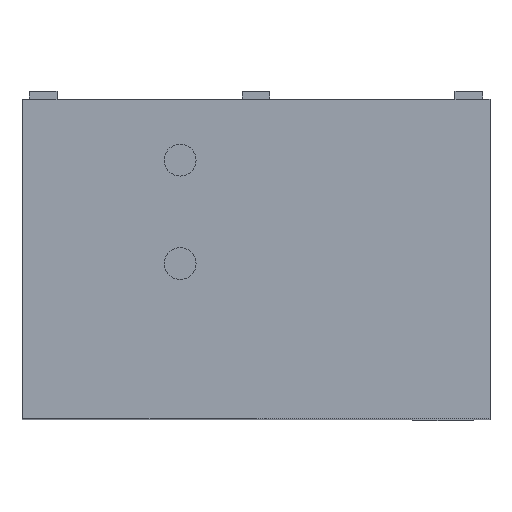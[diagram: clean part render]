
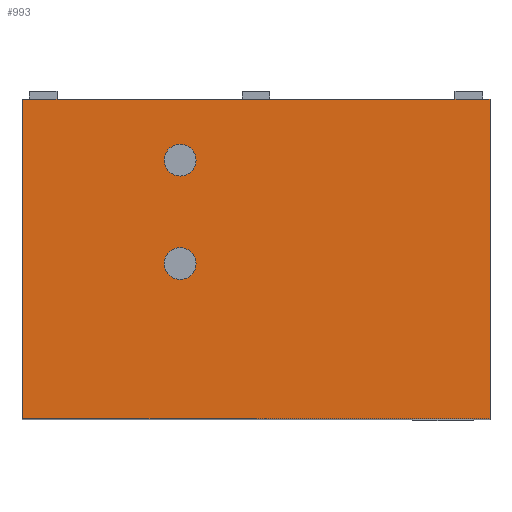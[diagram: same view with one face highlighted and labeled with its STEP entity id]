
A CAD part, top view. The second image highlights one B-rep face of the part: STEP entity #993.
In plain terms, the highlighted planar face has unit normal (0, 0, 1).
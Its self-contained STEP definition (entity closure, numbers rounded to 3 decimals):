
#62=LINE('',#1482,#166);
#77=LINE('',#1518,#181);
#81=LINE('',#1532,#185);
#99=LINE('',#1570,#203);
#100=LINE('',#1571,#204);
#101=LINE('',#1572,#205);
#102=LINE('',#1573,#206);
#116=LINE('',#1606,#220);
#117=LINE('',#1609,#221);
#118=LINE('',#1610,#222);
#166=VECTOR('',#1213,1000.);
#181=VECTOR('',#1246,1000.);
#185=VECTOR('',#1260,1000.);
#203=VECTOR('',#1294,1000.);
#204=VECTOR('',#1295,1000.);
#205=VECTOR('',#1296,1000.);
#206=VECTOR('',#1297,1000.);
#220=VECTOR('',#1327,1000.);
#221=VECTOR('',#1328,1000.);
#222=VECTOR('',#1329,1000.);
#442=ORIENTED_EDGE('',*,*,#603,.F.);
#443=ORIENTED_EDGE('',*,*,#604,.F.);
#444=ORIENTED_EDGE('',*,*,#605,.F.);
#445=ORIENTED_EDGE('',*,*,#606,.F.);
#446=ORIENTED_EDGE('',*,*,#589,.F.);
#447=ORIENTED_EDGE('',*,*,#567,.F.);
#448=ORIENTED_EDGE('',*,*,#588,.F.);
#449=ORIENTED_EDGE('',*,*,#561,.F.);
#450=ORIENTED_EDGE('',*,*,#587,.F.);
#451=ORIENTED_EDGE('',*,*,#544,.F.);
#452=ORIENTED_EDGE('',*,*,#586,.F.);
#453=ORIENTED_EDGE('',*,*,#607,.F.);
#544=EDGE_CURVE('',#657,#655,#62,.T.);
#561=EDGE_CURVE('',#669,#667,#77,.T.);
#567=EDGE_CURVE('',#672,#674,#81,.T.);
#586=EDGE_CURVE('',#685,#657,#99,.T.);
#587=EDGE_CURVE('',#655,#669,#100,.T.);
#588=EDGE_CURVE('',#667,#672,#101,.T.);
#589=EDGE_CURVE('',#674,#686,#102,.T.);
#603=EDGE_CURVE('',#695,#695,#721,.T.);
#604=EDGE_CURVE('',#696,#696,#722,.T.);
#605=EDGE_CURVE('',#697,#698,#116,.T.);
#606=EDGE_CURVE('',#686,#697,#117,.T.);
#607=EDGE_CURVE('',#698,#685,#118,.T.);
#655=VERTEX_POINT('',#1475);
#657=VERTEX_POINT('',#1483);
#667=VERTEX_POINT('',#1511);
#669=VERTEX_POINT('',#1519);
#672=VERTEX_POINT('',#1530);
#674=VERTEX_POINT('',#1533);
#685=VERTEX_POINT('',#1569);
#686=VERTEX_POINT('',#1574);
#695=VERTEX_POINT('',#1603);
#696=VERTEX_POINT('',#1605);
#697=VERTEX_POINT('',#1607);
#698=VERTEX_POINT('',#1608);
#721=CIRCLE('',#1081,20.);
#722=CIRCLE('',#1082,20.);
#792=EDGE_LOOP('',(#442));
#793=EDGE_LOOP('',(#443));
#794=EDGE_LOOP('',(#444,#445,#446,#447,#448,#449,#450,#451,#452,#453));
#878=FACE_BOUND('',#792,.T.);
#879=FACE_BOUND('',#793,.T.);
#880=FACE_BOUND('',#794,.T.);
#938=PLANE('',#1080);
#993=ADVANCED_FACE('',(#878,#879,#880),#938,.T.);
#1080=AXIS2_PLACEMENT_3D('',#1601,#1321,#1322);
#1081=AXIS2_PLACEMENT_3D('',#1602,#1323,#1324);
#1082=AXIS2_PLACEMENT_3D('',#1604,#1325,#1326);
#1213=DIRECTION('',(1.,0.,0.));
#1246=DIRECTION('',(1.,0.,0.));
#1260=DIRECTION('',(1.,0.,0.));
#1294=DIRECTION('',(1.,0.,0.));
#1295=DIRECTION('',(1.,0.,0.));
#1296=DIRECTION('',(1.,0.,0.));
#1297=DIRECTION('',(1.,0.,0.));
#1321=DIRECTION('',(0.,0.,1.));
#1322=DIRECTION('',(1.,0.,0.));
#1323=DIRECTION('',(0.,0.,1.));
#1324=DIRECTION('',(1.,0.,0.));
#1325=DIRECTION('',(0.,0.,1.));
#1326=DIRECTION('',(1.,0.,0.));
#1327=DIRECTION('',(-1.,0.,0.));
#1328=DIRECTION('',(0.,-1.,0.));
#1329=DIRECTION('',(0.,1.,0.));
#1475=CARTESIAN_POINT('',(-250.,200.,767.));
#1482=CARTESIAN_POINT('',(0.,200.,767.));
#1483=CARTESIAN_POINT('',(-285.,200.,767.));
#1511=CARTESIAN_POINT('',(17.5,200.,767.));
#1518=CARTESIAN_POINT('',(0.,200.,767.));
#1519=CARTESIAN_POINT('',(-17.5,200.,767.));
#1530=CARTESIAN_POINT('',(250.,200.,767.));
#1532=CARTESIAN_POINT('',(0.,200.,767.));
#1533=CARTESIAN_POINT('',(285.,200.,767.));
#1569=CARTESIAN_POINT('',(-294.,200.,767.));
#1570=CARTESIAN_POINT('',(0.,200.,767.));
#1571=CARTESIAN_POINT('',(0.,200.,767.));
#1572=CARTESIAN_POINT('',(0.,200.,767.));
#1573=CARTESIAN_POINT('',(0.,200.,767.));
#1574=CARTESIAN_POINT('',(294.,200.,767.));
#1601=CARTESIAN_POINT('',(0.,-0.5,767.));
#1602=CARTESIAN_POINT('',(-95.353,-6.363,767.));
#1603=CARTESIAN_POINT('',(-75.353,-6.363,767.));
#1604=CARTESIAN_POINT('',(-95.353,123.637,767.));
#1605=CARTESIAN_POINT('',(-75.353,123.637,767.));
#1606=CARTESIAN_POINT('',(0.,-201.,767.));
#1607=CARTESIAN_POINT('',(294.,-201.,767.));
#1608=CARTESIAN_POINT('',(-294.,-201.,767.));
#1609=CARTESIAN_POINT('',(294.,-0.5,767.));
#1610=CARTESIAN_POINT('',(-294.,-0.5,767.));
